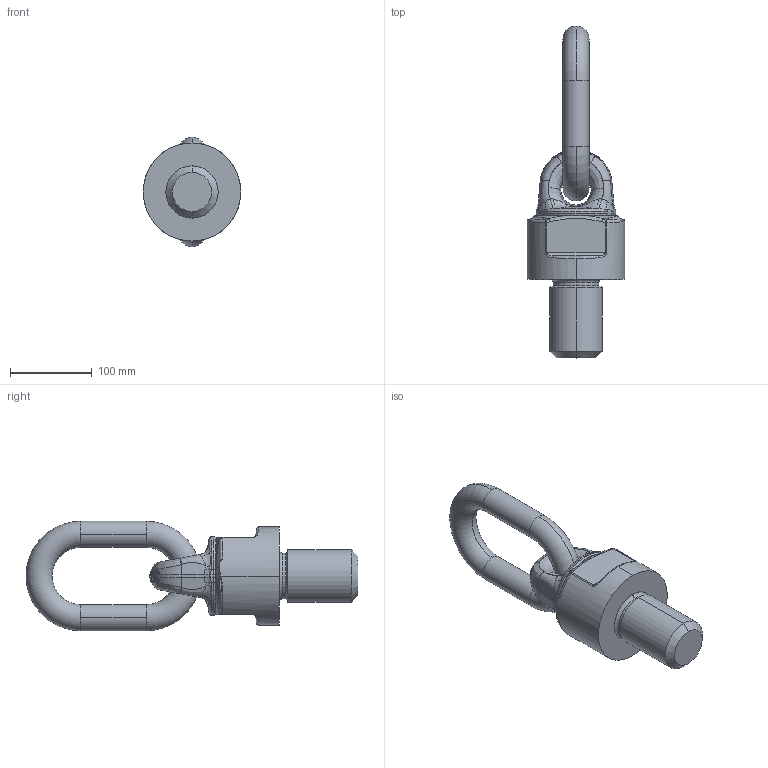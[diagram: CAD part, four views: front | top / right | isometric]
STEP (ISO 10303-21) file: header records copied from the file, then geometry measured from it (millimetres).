
FILE_DESCRIPTION(('STEP AP214'),'1');
FILE_NAME('c8001506496.stp','2017-03-22T14:29:36',('TraceParts'),('TraceParts S.A.'),'Spatial InterOp 3D',' ',' ');
FILE_SCHEMA(('automotive_design'));
Length unit declared in the file: millimetre
Products named in the file (3): c8001506496_1; c8001506496_2; c8001506496_3
Bounding box: 118.98 x 406 x 134 mm (x, y, z)
Volume: 1717050.6 mm3; surface area: 147502.1 mm2
Topology: 3 solids, 3 shells, 358 faces, 1008 edges, 637 vertices
Faces by surface type: bspline 205, plane 70, cylinder 67, cone 6, torus 6, sphere 4
Entity records: 29036 total; most frequent: CARTESIAN_POINT 18307, ORIENTED_EDGE 1984, DIRECTION 1170, EDGE_CURVE 992, VERTEX_POINT 637, AXIS2_PLACEMENT_3D 471, B_SPLINE_CURVE_WITH_KNOTS 448, STYLED_ITEM 361
